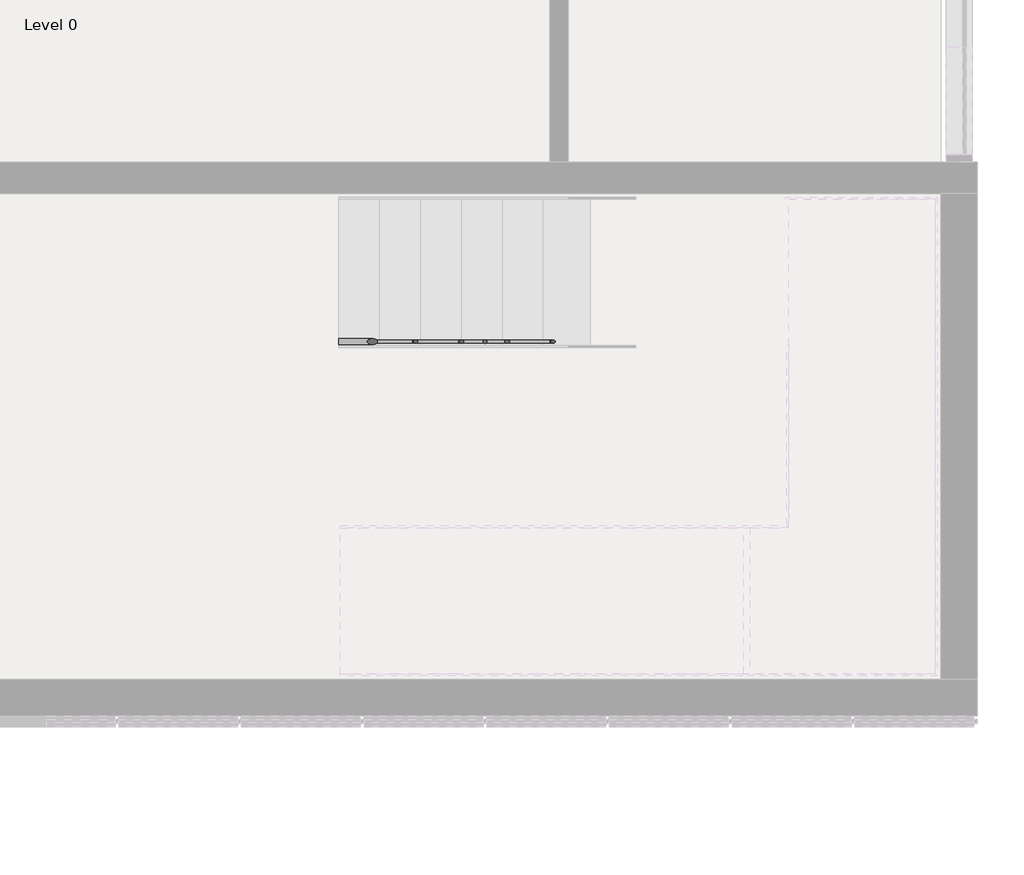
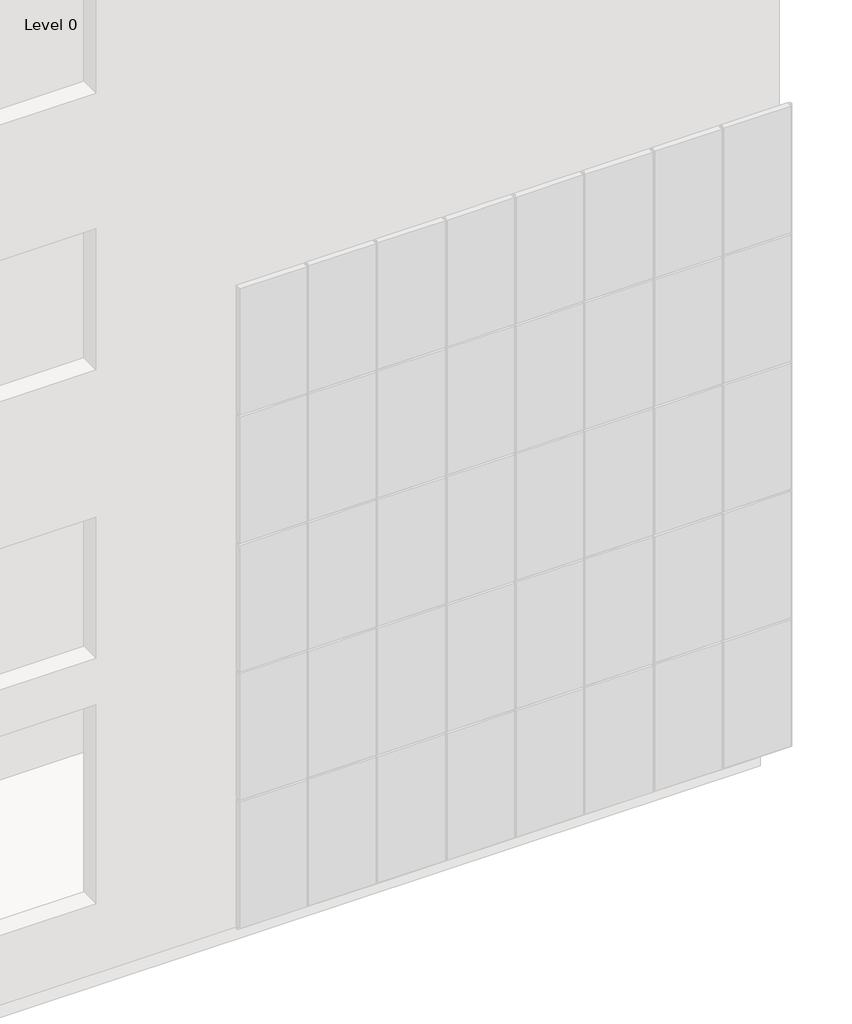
# One storey, part 9 of 10: 1 railing.
"""IFC4 building model written with IfcOpenShell, lengths in millimetres."""

from ifc_helpers import new_model, si_unit, point, frame, frame_2d, origin, place, context, project, spatial, circle_curve, ellipse_curve, trimmed, segment, composite_curve, outline, extrude, element, save
from ifc_brep_helpers import plane_surface, cylinder_surface, advanced_brep

model = new_model("IFC4")

# Units and contexts
model_context = context("Model", 3, world=origin())
ifc_project = project(units=[si_unit("LENGTHUNIT", "METRE", prefix="MILLI")], contexts=[model_context])

# Site, building, storey
site = spatial("IfcSite", under=ifc_project)
building = spatial("IfcBuilding", under=site)
storey = spatial("IfcBuildingStorey", under=building, Name="Level 0", Elevation=0.0)

# Railing
placement = place(None, origin())
element("IfcRailing", 1, ObjectType="900mm_Pipe", at=placement, inside=storey, context=model_context, shape_type="SolidModel", body=[
    advanced_brep(
    [(35285.7942367, -992.7974508, 1054.8502855), (35285.7942367, -952.7974508, 1054.8502855), (38091.628989, -992.7974508, 2844.2857143), (38091.628989, -952.7974508, 2844.2857143), (38371.1942367, -992.7974508, 2844.2857143), (38411.1942367, -952.7974508, 2844.2857143), (38371.1942367, -2266.6392576, 2844.2857143), (38411.1942367, -2300.3644452, 2844.2857143)],
    [
        (0, 1, ellipse_curve(frame((35285.7942367, -972.7974508, 1054.8502855), z_axis=(-1.0, 0.0, 0.0), x_axis=(0.0, 0.0, -1.0)), 23.7211431, 20.0)),
        (1, 0, ellipse_curve(frame((35285.7942367, -972.7974508, 1054.8502855), z_axis=(-1.0, 0.0, 0.0), x_axis=(0.0, 0.0, -1.0)), 23.7211431, 20.0)),
        (0, 2),
        (2, 3, ellipse_curve(frame((38091.628989, -972.7974508, 2844.2857143), z_axis=(-0.9599816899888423, 0.0, -0.2800627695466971), x_axis=(0.2800627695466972, 0.0, -0.9599816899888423)), 20.8337307, 20.0)),
        (3, 1),
        (3, 2, ellipse_curve(frame((38091.628989, -972.7974508, 2844.2857143), z_axis=(-0.9599816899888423, 0.0, -0.2800627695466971), x_axis=(0.2800627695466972, 0.0, -0.9599816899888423)), 20.8337307, 20.0)),
        (2, 4),
        (4, 5, ellipse_curve(frame((38391.1942367, -972.7974508, 2844.2857143), z_axis=(-0.7071067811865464, 0.7071067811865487, 0.0), x_axis=(-0.7071067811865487, -0.7071067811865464, 0.0)), 28.2842712, 20.0)),
        (5, 3),
        (5, 4, ellipse_curve(frame((38391.1942367, -972.7974508, 2844.2857143), z_axis=(-0.7071067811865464, 0.7071067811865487, 0.0), x_axis=(-0.7071067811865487, -0.7071067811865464, 0.0)), 28.2842712, 20.0)),
        (6, 7, ellipse_curve(frame((38391.1942367, -2283.5018514, 2844.2857143), z_axis=(-0.5961827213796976, -0.7071067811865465, 0.38021857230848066), x_axis=(-0.5961827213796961, 0.7071067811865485, 0.3802185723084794)), 28.2842712, 20.0)),
        (7, 6, ellipse_curve(frame((38391.1942367, -2283.5018514, 2844.2857143), z_axis=(-0.5961827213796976, -0.7071067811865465, 0.38021857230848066), x_axis=(-0.5961827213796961, 0.7071067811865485, 0.3802185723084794)), 28.2842712, 20.0)),
        (4, 6),
        (7, 5),
    ],
    [
        plane_surface(frame((35285.7942367, -972.7974508, 1078.5714286), z_axis=(-1.0, 0.0, 0.0), x_axis=(0.0, 1.0, 0.0))),
        cylinder_surface(frame((35296.5484419, -972.7974508, 1061.7088348), z_axis=(-0.8431296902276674, 0.0, -0.5377102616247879), x_axis=(0.0, 1.0, 0.0)), 20.0),
        cylinder_surface(frame((38085.7942367, -972.7974508, 2844.2857143), z_axis=(-1.0, 0.0, 0.0), x_axis=(0.0, 1.0, 0.0)), 20.0),
        plane_surface(frame((38391.1942367, -2272.7476462, 2864.2857143), z_axis=(-0.5961827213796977, -0.7071067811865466, 0.3802185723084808), x_axis=(0.8028487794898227, -0.5250862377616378, 0.2823442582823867))),
        cylinder_surface(frame((38391.1942367, -972.7974508, 2844.2857143), z_axis=(0.0, 1.0, 0.0), x_axis=(1.0, 0.0, 0.0)), 20.0),
    ],
    [
        (0, [[1, 2]]),
        (1, [[-1, 3, 4, 5]]),
        (1, [[-2, -5, 6, -3]]),
        (2, [[-4, 7, 8, 9]]),
        (2, [[-6, -9, 10, -7]]),
        (3, [[11, 12]]),
        (4, [[-8, 13, -12, 14]]),
        (4, [[-10, -14, -11, -13]]),
    ],
),
    advanced_brep(
    [(38348.7428942, -2252.7476462, 2858.1773257), (38382.4680818, -2292.7476462, 2836.6689152), (38085.605488, -2252.7476462, 3025.9945491), (38085.605488, -2292.7476462, 3025.9945491), (35570.5249409, -2252.7476462, 4630.0), (35570.5249409, -2292.7476462, 4630.0), (35296.3596932, -2252.7476462, 4630.0), (35296.3596932, -2292.7476462, 4630.0)],
    [
        (0, 1, ellipse_curve(frame((38365.605488, -2272.7476462, 2847.4231205), z_axis=(0.5961827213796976, 0.7071067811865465, -0.38021857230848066), x_axis=(0.5961827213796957, -0.7071067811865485, -0.38021857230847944)), 28.2842712, 20.0)),
        (1, 0, ellipse_curve(frame((38365.605488, -2272.7476462, 2847.4231205), z_axis=(0.5961827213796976, 0.7071067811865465, -0.38021857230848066), x_axis=(0.5961827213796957, -0.7071067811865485, -0.38021857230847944)), 28.2842712, 20.0)),
        (0, 2),
        (2, 3, circle_curve(frame((38085.605488, -2272.7476462, 3025.9945491), z_axis=(0.8431296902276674, 0.0, -0.5377102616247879), x_axis=(0.0, -1.0, 0.0)), 20.0)),
        (3, 1),
        (3, 2, circle_curve(frame((38085.605488, -2272.7476462, 3025.9945491), z_axis=(0.8431296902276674, 0.0, -0.5377102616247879), x_axis=(0.0, -1.0, 0.0)), 20.0)),
        (2, 4),
        (4, 5, ellipse_curve(frame((35570.5249409, -2272.7476462, 4630.0), z_axis=(0.9599816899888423, 0.0, -0.28006276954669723), x_axis=(-0.28006276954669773, 0.0, -0.9599816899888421)), 20.8337307, 20.0)),
        (5, 3),
        (5, 4, ellipse_curve(frame((35570.5249409, -2272.7476462, 4630.0), z_axis=(0.9599816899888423, 0.0, -0.28006276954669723), x_axis=(-0.28006276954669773, 0.0, -0.9599816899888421)), 20.8337307, 20.0)),
        (6, 7, circle_curve(frame((35296.3596932, -2272.7476462, 4630.0), z_axis=(-1.0, 0.0, 0.0), x_axis=(0.0, -1.0, 0.0)), 20.0)),
        (7, 6, circle_curve(frame((35296.3596932, -2272.7476462, 4630.0), z_axis=(-1.0, 0.0, 0.0), x_axis=(0.0, -1.0, 0.0)), 20.0)),
        (4, 6),
        (7, 5),
    ],
    [
        plane_surface(frame((38376.3596932, -2272.7476462, 2864.2857143), z_axis=(0.5961827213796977, 0.7071067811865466, -0.3802185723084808), x_axis=(0.8028487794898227, -0.5250862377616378, 0.2823442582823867))),
        cylinder_surface(frame((38365.605488, -2272.7476462, 2847.4231205), z_axis=(0.8431296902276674, 0.0, -0.5377102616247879), x_axis=(0.0, -1.0, 0.0)), 20.0),
        cylinder_surface(frame((38085.605488, -2272.7476462, 3025.9945491), z_axis=(0.8431296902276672, 0.0, -0.5377102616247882), x_axis=(0.0, -1.0, 0.0)), 20.0),
        plane_surface(frame((35296.3596932, -2272.7476462, 4650.0), z_axis=(-1.0, 0.0, 0.0), x_axis=(0.0, -1.0, 0.0))),
        cylinder_surface(frame((35576.3596932, -2272.7476462, 4630.0), z_axis=(1.0, 0.0, 0.0), x_axis=(0.0, -1.0, 0.0)), 20.0),
    ],
    [
        (0, [[1, 2]]),
        (1, [[-1, 3, 4, 5]]),
        (1, [[-2, -5, 6, -3]]),
        (2, [[-4, 7, 8, 9]]),
        (2, [[-6, -9, 10, -7]]),
        (3, [[11, 12]]),
        (4, [[-8, 13, -12, 14]]),
        (4, [[-10, -14, -11, -13]]),
    ],
),
    advanced_brep(
    [(35285.7942367, -962.7974508, 866.710857), (35285.7942367, -982.7974508, 866.710857), (38088.7116128, -962.7974508, 2654.2857143), (38088.7116128, -982.7974508, 2654.2857143), (38381.1942367, -962.7974508, 2654.2857143), (38381.1942367, -982.7974508, 2654.2857143)],
    [
        (0, 1, ellipse_curve(frame((35285.7942367, -972.7974508, 866.710857), z_axis=(-1.0, 0.0, 0.0), x_axis=(0.0, 0.0, -1.0)), 11.8605715, 10.0)),
        (1, 0, ellipse_curve(frame((35285.7942367, -972.7974508, 866.710857), z_axis=(-1.0, 0.0, 0.0), x_axis=(0.0, 0.0, -1.0)), 11.8605715, 10.0)),
        (0, 2),
        (2, 3, ellipse_curve(frame((38088.7116128, -972.7974508, 2654.2857143), z_axis=(-0.9599816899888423, 0.0, -0.2800627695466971), x_axis=(0.2800627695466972, 0.0, -0.9599816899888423)), 10.4168653, 10.0)),
        (3, 1),
        (3, 2, ellipse_curve(frame((38088.7116128, -972.7974508, 2654.2857143), z_axis=(-0.9599816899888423, 0.0, -0.2800627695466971), x_axis=(0.2800627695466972, 0.0, -0.9599816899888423)), 10.4168653, 10.0)),
        (4, 5, circle_curve(frame((38381.1942367, -972.7974508, 2654.2857143), z_axis=(1.0, 0.0, 0.0), x_axis=(0.0, -1.0, 0.0)), 10.0)),
        (5, 4, circle_curve(frame((38381.1942367, -972.7974508, 2654.2857143), z_axis=(1.0, 0.0, 0.0), x_axis=(0.0, -1.0, 0.0)), 10.0)),
        (2, 4),
        (5, 3),
    ],
    [
        plane_surface(frame((35285.7942367, -972.7974508, 878.5714286), z_axis=(-1.0, 0.0, 0.0), x_axis=(0.0, 1.0, 0.0))),
        cylinder_surface(frame((35291.1713393, -972.7974508, 870.1401317), z_axis=(-0.8431296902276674, 0.0, -0.5377102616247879), x_axis=(0.0, -1.0, 0.0)), 10.0),
        plane_surface(frame((38381.1942367, -972.7974508, 2664.2857143), z_axis=(1.0, 0.0, 0.0), x_axis=(0.0, 1.0, 0.0))),
        cylinder_surface(frame((38085.7942367, -972.7974508, 2654.2857143), z_axis=(-1.0, 0.0, 0.0), x_axis=(0.0, -1.0, 0.0)), 10.0),
    ],
    [
        (0, [[1, 2]]),
        (1, [[-1, 3, 4, 5]]),
        (1, [[-2, -5, 6, -3]]),
        (2, [[7, 8]]),
        (3, [[-4, 9, -8, 10]]),
        (3, [[-6, -10, -7, -9]]),
    ],
),
    advanced_brep(
    [(38401.1942367, -962.7974508, 2654.2857143), (38381.1942367, -962.7974508, 2654.2857143), (38401.1942367, -2262.7476462, 2654.2857143), (38381.1942367, -2262.7476462, 2654.2857143)],
    [
        (0, 1, circle_curve(frame((38391.1942367, -962.7974508, 2654.2857143), z_axis=(0.0, 1.0, 0.0), x_axis=(-1.0, 0.0, 0.0)), 10.0)),
        (1, 0, circle_curve(frame((38391.1942367, -962.7974508, 2654.2857143), z_axis=(0.0, 1.0, 0.0), x_axis=(-1.0, 0.0, 0.0)), 10.0)),
        (2, 3, circle_curve(frame((38391.1942367, -2262.7476462, 2654.2857143), z_axis=(0.0, -1.0, 0.0), x_axis=(-1.0, 0.0, 0.0)), 10.0)),
        (3, 2, circle_curve(frame((38391.1942367, -2262.7476462, 2654.2857143), z_axis=(0.0, -1.0, 0.0), x_axis=(-1.0, 0.0, 0.0)), 10.0)),
        (0, 2),
        (3, 1),
    ],
    [
        plane_surface(frame((38391.1942367, -962.7974508, 2664.2857143), z_axis=(0.0, 1.0, 0.0), x_axis=(0.0, 0.0, -1.0))),
        plane_surface(frame((38391.1942367, -2262.7476462, 2664.2857143), z_axis=(0.0, -1.0, 0.0), x_axis=(0.0, 0.0, -1.0))),
        cylinder_surface(frame((38391.1942367, -962.7974508, 2654.2857143), z_axis=(0.0, 1.0, 0.0), x_axis=(-1.0, 0.0, 0.0)), 10.0),
    ],
    [
        (0, [[1, 2]]),
        (1, [[3, 4]]),
        (2, [[-1, 5, -4, 6]]),
        (2, [[-2, -6, -3, -5]]),
    ],
),
    advanced_brep(
    [(38401.1942367, -2282.7476462, 2654.2857143), (38401.1942367, -2262.7476462, 2654.2857143), (38373.4423171, -2282.7476462, 2654.2857143), (38373.4423171, -2262.7476462, 2654.2857143), (38096.3596932, -2282.7476462, 2830.9965713), (38096.3596932, -2262.7476462, 2830.9965713)],
    [
        (0, 1, circle_curve(frame((38401.1942367, -2272.7476462, 2654.2857143), z_axis=(1.0, 0.0, 0.0), x_axis=(0.0, 1.0, 0.0)), 10.0)),
        (1, 0, circle_curve(frame((38401.1942367, -2272.7476462, 2654.2857143), z_axis=(1.0, 0.0, 0.0), x_axis=(0.0, 1.0, 0.0)), 10.0)),
        (0, 2),
        (2, 3, ellipse_curve(frame((38373.4423171, -2272.7476462, 2654.2857143), z_axis=(0.9599816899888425, 0.0, -0.2800627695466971), x_axis=(0.28006276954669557, 0.0, 0.9599816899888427)), 10.4168653, 10.0)),
        (3, 1),
        (3, 2, ellipse_curve(frame((38373.4423171, -2272.7476462, 2654.2857143), z_axis=(0.9599816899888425, 0.0, -0.2800627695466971), x_axis=(0.28006276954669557, 0.0, 0.9599816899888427)), 10.4168653, 10.0)),
        (4, 5, ellipse_curve(frame((38096.3596932, -2272.7476462, 2830.9965713), z_axis=(-1.0, 0.0, 0.0), x_axis=(0.0, 0.0, -1.0)), 11.8605715, 10.0)),
        (5, 4, ellipse_curve(frame((38096.3596932, -2272.7476462, 2830.9965713), z_axis=(-1.0, 0.0, 0.0), x_axis=(0.0, 0.0, -1.0)), 11.8605715, 10.0)),
        (2, 4),
        (5, 3),
    ],
    [
        plane_surface(frame((38401.1942367, -2272.7476462, 2664.2857143), z_axis=(1.0, 0.0, 0.0), x_axis=(0.0, -1.0, 0.0))),
        cylinder_surface(frame((38401.1942367, -2272.7476462, 2654.2857143), z_axis=(1.0, 0.0, 0.0), x_axis=(0.0, 1.0, 0.0)), 10.0),
        plane_surface(frame((38096.3596932, -2272.7476462, 2842.8571429), z_axis=(-1.0, 0.0, 0.0), x_axis=(0.0, -1.0, 0.0))),
        cylinder_surface(frame((38370.9825906, -2272.7476462, 2655.8544174), z_axis=(0.8431296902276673, 0.0, -0.5377102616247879), x_axis=(0.0, 1.0, 0.0)), 10.0),
    ],
    [
        (0, [[1, 2]]),
        (1, [[-1, 3, 4, 5]]),
        (1, [[-2, -5, 6, -3]]),
        (2, [[7, 8]]),
        (3, [[-4, 9, -8, 10]]),
        (3, [[-6, -10, -7, -9]]),
    ],
),
    advanced_brep(
    [(38096.3596932, -2282.7476462, 2830.9965713), (38096.3596932, -2262.7476462, 2830.9965713), (35573.4423171, -2282.7476462, 4440.0), (35573.4423171, -2262.7476462, 4440.0), (35296.3596932, -2282.7476462, 4440.0), (35296.3596932, -2262.7476462, 4440.0)],
    [
        (0, 1, ellipse_curve(frame((38096.3596932, -2272.7476462, 2830.9965713), z_axis=(1.0, 0.0, 0.0), x_axis=(0.0, 0.0, -1.0)), 11.8605715, 10.0)),
        (1, 0, ellipse_curve(frame((38096.3596932, -2272.7476462, 2830.9965713), z_axis=(1.0, 0.0, 0.0), x_axis=(0.0, 0.0, -1.0)), 11.8605715, 10.0)),
        (0, 2),
        (2, 3, ellipse_curve(frame((35573.4423171, -2272.7476462, 4440.0), z_axis=(0.9599816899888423, 0.0, -0.28006276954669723), x_axis=(-0.28006276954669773, 0.0, -0.9599816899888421)), 10.4168653, 10.0)),
        (3, 1),
        (3, 2, ellipse_curve(frame((35573.4423171, -2272.7476462, 4440.0), z_axis=(0.9599816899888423, 0.0, -0.28006276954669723), x_axis=(-0.28006276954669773, 0.0, -0.9599816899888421)), 10.4168653, 10.0)),
        (4, 5, circle_curve(frame((35296.3596932, -2272.7476462, 4440.0), z_axis=(-1.0, 0.0, 0.0), x_axis=(0.0, 1.0, 0.0)), 10.0)),
        (5, 4, circle_curve(frame((35296.3596932, -2272.7476462, 4440.0), z_axis=(-1.0, 0.0, 0.0), x_axis=(0.0, 1.0, 0.0)), 10.0)),
        (2, 4),
        (5, 3),
    ],
    [
        plane_surface(frame((38096.3596932, -2272.7476462, 2842.8571429), z_axis=(1.0, 0.0, 0.0), x_axis=(0.0, -1.0, 0.0))),
        cylinder_surface(frame((38090.9825906, -2272.7476462, 2834.425846), z_axis=(0.8431296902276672, 0.0, -0.5377102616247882), x_axis=(0.0, 1.0, 0.0)), 10.0),
        plane_surface(frame((35296.3596932, -2272.7476462, 4450.0), z_axis=(-1.0, 0.0, 0.0), x_axis=(0.0, -1.0, 0.0))),
        cylinder_surface(frame((35576.3596932, -2272.7476462, 4440.0), z_axis=(1.0, 0.0, 0.0), x_axis=(0.0, 1.0, 0.0)), 10.0),
    ],
    [
        (0, [[1, 2]]),
        (1, [[-1, 3, 4, 5]]),
        (1, [[-2, -5, 6, -3]]),
        (2, [[7, 8]]),
        (3, [[-4, 9, -8, 10]]),
        (3, [[-6, -10, -7, -9]]),
    ],
),
    advanced_brep(
    [(35285.7942367, -962.7974508, 666.710857), (35285.7942367, -982.7974508, 666.710857), (38088.7116128, -962.7974508, 2454.2857143), (38088.7116128, -982.7974508, 2454.2857143), (38381.1942367, -962.7974508, 2454.2857143), (38381.1942367, -982.7974508, 2454.2857143)],
    [
        (0, 1, ellipse_curve(frame((35285.7942367, -972.7974508, 666.710857), z_axis=(-1.0, 0.0, 0.0), x_axis=(0.0, 0.0, -1.0)), 11.8605715, 10.0)),
        (1, 0, ellipse_curve(frame((35285.7942367, -972.7974508, 666.710857), z_axis=(-1.0, 0.0, 0.0), x_axis=(0.0, 0.0, -1.0)), 11.8605715, 10.0)),
        (0, 2),
        (2, 3, ellipse_curve(frame((38088.7116128, -972.7974508, 2454.2857143), z_axis=(-0.9599816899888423, 0.0, -0.2800627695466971), x_axis=(0.2800627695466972, 0.0, -0.9599816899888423)), 10.4168653, 10.0)),
        (3, 1),
        (3, 2, ellipse_curve(frame((38088.7116128, -972.7974508, 2454.2857143), z_axis=(-0.9599816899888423, 0.0, -0.2800627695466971), x_axis=(0.2800627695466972, 0.0, -0.9599816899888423)), 10.4168653, 10.0)),
        (4, 5, circle_curve(frame((38381.1942367, -972.7974508, 2454.2857143), z_axis=(1.0, 0.0, 0.0), x_axis=(0.0, -1.0, 0.0)), 10.0)),
        (5, 4, circle_curve(frame((38381.1942367, -972.7974508, 2454.2857143), z_axis=(1.0, 0.0, 0.0), x_axis=(0.0, -1.0, 0.0)), 10.0)),
        (2, 4),
        (5, 3),
    ],
    [
        plane_surface(frame((35285.7942367, -972.7974508, 678.5714286), z_axis=(-1.0, 0.0, 0.0), x_axis=(0.0, 1.0, 0.0))),
        cylinder_surface(frame((35291.1713393, -972.7974508, 670.1401317), z_axis=(-0.8431296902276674, 0.0, -0.5377102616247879), x_axis=(0.0, -1.0, 0.0)), 10.0),
        plane_surface(frame((38381.1942367, -972.7974508, 2464.2857143), z_axis=(1.0, 0.0, 0.0), x_axis=(0.0, 1.0, 0.0))),
        cylinder_surface(frame((38085.7942367, -972.7974508, 2454.2857143), z_axis=(-1.0, 0.0, 0.0), x_axis=(0.0, -1.0, 0.0)), 10.0),
    ],
    [
        (0, [[1, 2]]),
        (1, [[-1, 3, 4, 5]]),
        (1, [[-2, -5, 6, -3]]),
        (2, [[7, 8]]),
        (3, [[-4, 9, -8, 10]]),
        (3, [[-6, -10, -7, -9]]),
    ],
),
    advanced_brep(
    [(38401.1942367, -962.7974508, 2454.2857143), (38381.1942367, -962.7974508, 2454.2857143), (38401.1942367, -2262.7476462, 2454.2857143), (38381.1942367, -2262.7476462, 2454.2857143)],
    [
        (0, 1, circle_curve(frame((38391.1942367, -962.7974508, 2454.2857143), z_axis=(0.0, 1.0, 0.0), x_axis=(-1.0, 0.0, 0.0)), 10.0)),
        (1, 0, circle_curve(frame((38391.1942367, -962.7974508, 2454.2857143), z_axis=(0.0, 1.0, 0.0), x_axis=(-1.0, 0.0, 0.0)), 10.0)),
        (2, 3, circle_curve(frame((38391.1942367, -2262.7476462, 2454.2857143), z_axis=(0.0, -1.0, 0.0), x_axis=(-1.0, 0.0, 0.0)), 10.0)),
        (3, 2, circle_curve(frame((38391.1942367, -2262.7476462, 2454.2857143), z_axis=(0.0, -1.0, 0.0), x_axis=(-1.0, 0.0, 0.0)), 10.0)),
        (0, 2),
        (3, 1),
    ],
    [
        plane_surface(frame((38391.1942367, -962.7974508, 2464.2857143), z_axis=(0.0, 1.0, 0.0), x_axis=(0.0, 0.0, -1.0))),
        plane_surface(frame((38391.1942367, -2262.7476462, 2464.2857143), z_axis=(0.0, -1.0, 0.0), x_axis=(0.0, 0.0, -1.0))),
        cylinder_surface(frame((38391.1942367, -962.7974508, 2454.2857143), z_axis=(0.0, 1.0, 0.0), x_axis=(-1.0, 0.0, 0.0)), 10.0),
    ],
    [
        (0, [[1, 2]]),
        (1, [[3, 4]]),
        (2, [[-1, 5, -4, 6]]),
        (2, [[-2, -6, -3, -5]]),
    ],
),
    advanced_brep(
    [(38401.1942367, -2282.7476462, 2454.2857143), (38401.1942367, -2262.7476462, 2454.2857143), (38373.4423171, -2282.7476462, 2454.2857143), (38373.4423171, -2262.7476462, 2454.2857143), (38096.3596932, -2282.7476462, 2630.9965713), (38096.3596932, -2262.7476462, 2630.9965713)],
    [
        (0, 1, circle_curve(frame((38401.1942367, -2272.7476462, 2454.2857143), z_axis=(1.0, 0.0, 0.0), x_axis=(0.0, 1.0, 0.0)), 10.0)),
        (1, 0, circle_curve(frame((38401.1942367, -2272.7476462, 2454.2857143), z_axis=(1.0, 0.0, 0.0), x_axis=(0.0, 1.0, 0.0)), 10.0)),
        (0, 2),
        (2, 3, ellipse_curve(frame((38373.4423171, -2272.7476462, 2454.2857143), z_axis=(0.9599816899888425, 0.0, -0.2800627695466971), x_axis=(0.28006276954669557, 0.0, 0.9599816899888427)), 10.4168653, 10.0)),
        (3, 1),
        (3, 2, ellipse_curve(frame((38373.4423171, -2272.7476462, 2454.2857143), z_axis=(0.9599816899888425, 0.0, -0.2800627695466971), x_axis=(0.28006276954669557, 0.0, 0.9599816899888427)), 10.4168653, 10.0)),
        (4, 5, ellipse_curve(frame((38096.3596932, -2272.7476462, 2630.9965713), z_axis=(-1.0, 0.0, 0.0), x_axis=(0.0, 0.0, -1.0)), 11.8605715, 10.0)),
        (5, 4, ellipse_curve(frame((38096.3596932, -2272.7476462, 2630.9965713), z_axis=(-1.0, 0.0, 0.0), x_axis=(0.0, 0.0, -1.0)), 11.8605715, 10.0)),
        (2, 4),
        (5, 3),
    ],
    [
        plane_surface(frame((38401.1942367, -2272.7476462, 2464.2857143), z_axis=(1.0, 0.0, 0.0), x_axis=(0.0, -1.0, 0.0))),
        cylinder_surface(frame((38401.1942367, -2272.7476462, 2454.2857143), z_axis=(1.0, 0.0, 0.0), x_axis=(0.0, 1.0, 0.0)), 10.0),
        plane_surface(frame((38096.3596932, -2272.7476462, 2642.8571429), z_axis=(-1.0, 0.0, 0.0), x_axis=(0.0, -1.0, 0.0))),
        cylinder_surface(frame((38370.9825906, -2272.7476462, 2455.8544174), z_axis=(0.8431296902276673, 0.0, -0.5377102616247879), x_axis=(0.0, 1.0, 0.0)), 10.0),
    ],
    [
        (0, [[1, 2]]),
        (1, [[-1, 3, 4, 5]]),
        (1, [[-2, -5, 6, -3]]),
        (2, [[7, 8]]),
        (3, [[-4, 9, -8, 10]]),
        (3, [[-6, -10, -7, -9]]),
    ],
),
    advanced_brep(
    [(38096.3596932, -2282.7476462, 2630.9965713), (38096.3596932, -2262.7476462, 2630.9965713), (35573.4423171, -2282.7476462, 4240.0), (35573.4423171, -2262.7476462, 4240.0), (35296.3596932, -2282.7476462, 4240.0), (35296.3596932, -2262.7476462, 4240.0)],
    [
        (0, 1, ellipse_curve(frame((38096.3596932, -2272.7476462, 2630.9965713), z_axis=(1.0, 0.0, 0.0), x_axis=(0.0, 0.0, -1.0)), 11.8605715, 10.0)),
        (1, 0, ellipse_curve(frame((38096.3596932, -2272.7476462, 2630.9965713), z_axis=(1.0, 0.0, 0.0), x_axis=(0.0, 0.0, -1.0)), 11.8605715, 10.0)),
        (0, 2),
        (2, 3, ellipse_curve(frame((35573.4423171, -2272.7476462, 4240.0), z_axis=(0.9599816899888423, 0.0, -0.28006276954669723), x_axis=(-0.28006276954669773, 0.0, -0.9599816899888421)), 10.4168653, 10.0)),
        (3, 1),
        (3, 2, ellipse_curve(frame((35573.4423171, -2272.7476462, 4240.0), z_axis=(0.9599816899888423, 0.0, -0.28006276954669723), x_axis=(-0.28006276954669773, 0.0, -0.9599816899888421)), 10.4168653, 10.0)),
        (4, 5, circle_curve(frame((35296.3596932, -2272.7476462, 4240.0), z_axis=(-1.0, 0.0, 0.0), x_axis=(0.0, 1.0, 0.0)), 10.0)),
        (5, 4, circle_curve(frame((35296.3596932, -2272.7476462, 4240.0), z_axis=(-1.0, 0.0, 0.0), x_axis=(0.0, 1.0, 0.0)), 10.0)),
        (2, 4),
        (5, 3),
    ],
    [
        plane_surface(frame((38096.3596932, -2272.7476462, 2642.8571429), z_axis=(1.0, 0.0, 0.0), x_axis=(0.0, -1.0, 0.0))),
        cylinder_surface(frame((38090.9825906, -2272.7476462, 2634.425846), z_axis=(0.8431296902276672, 0.0, -0.5377102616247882), x_axis=(0.0, 1.0, 0.0)), 10.0),
        plane_surface(frame((35296.3596932, -2272.7476462, 4250.0), z_axis=(-1.0, 0.0, 0.0), x_axis=(0.0, -1.0, 0.0))),
        cylinder_surface(frame((35576.3596932, -2272.7476462, 4240.0), z_axis=(1.0, 0.0, 0.0), x_axis=(0.0, 1.0, 0.0)), 10.0),
    ],
    [
        (0, [[1, 2]]),
        (1, [[-1, 3, 4, 5]]),
        (1, [[-2, -5, 6, -3]]),
        (2, [[7, 8]]),
        (3, [[-4, 9, -8, 10]]),
        (3, [[-6, -10, -7, -9]]),
    ],
),
    advanced_brep(
    [(35285.7942367, -962.7974508, 466.710857), (35285.7942367, -982.7974508, 466.710857), (38088.7116128, -962.7974508, 2254.2857143), (38088.7116128, -982.7974508, 2254.2857143), (38381.1942367, -962.7974508, 2254.2857143), (38381.1942367, -982.7974508, 2254.2857143)],
    [
        (0, 1, ellipse_curve(frame((35285.7942367, -972.7974508, 466.710857), z_axis=(-1.0, 0.0, 0.0), x_axis=(0.0, 0.0, -1.0)), 11.8605715, 10.0)),
        (1, 0, ellipse_curve(frame((35285.7942367, -972.7974508, 466.710857), z_axis=(-1.0, 0.0, 0.0), x_axis=(0.0, 0.0, -1.0)), 11.8605715, 10.0)),
        (0, 2),
        (2, 3, ellipse_curve(frame((38088.7116128, -972.7974508, 2254.2857143), z_axis=(-0.9599816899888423, 0.0, -0.2800627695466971), x_axis=(0.2800627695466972, 0.0, -0.9599816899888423)), 10.4168653, 10.0)),
        (3, 1),
        (3, 2, ellipse_curve(frame((38088.7116128, -972.7974508, 2254.2857143), z_axis=(-0.9599816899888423, 0.0, -0.2800627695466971), x_axis=(0.2800627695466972, 0.0, -0.9599816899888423)), 10.4168653, 10.0)),
        (4, 5, circle_curve(frame((38381.1942367, -972.7974508, 2254.2857143), z_axis=(1.0, 0.0, 0.0), x_axis=(0.0, -1.0, 0.0)), 10.0)),
        (5, 4, circle_curve(frame((38381.1942367, -972.7974508, 2254.2857143), z_axis=(1.0, 0.0, 0.0), x_axis=(0.0, -1.0, 0.0)), 10.0)),
        (2, 4),
        (5, 3),
    ],
    [
        plane_surface(frame((35285.7942367, -972.7974508, 478.5714286), z_axis=(-1.0, 0.0, 0.0), x_axis=(0.0, 1.0, 0.0))),
        cylinder_surface(frame((35291.1713393, -972.7974508, 470.1401317), z_axis=(-0.8431296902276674, 0.0, -0.5377102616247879), x_axis=(0.0, -1.0, 0.0)), 10.0),
        plane_surface(frame((38381.1942367, -972.7974508, 2264.2857143), z_axis=(1.0, 0.0, 0.0), x_axis=(0.0, 1.0, 0.0))),
        cylinder_surface(frame((38085.7942367, -972.7974508, 2254.2857143), z_axis=(-1.0, 0.0, 0.0), x_axis=(0.0, -1.0, 0.0)), 10.0),
    ],
    [
        (0, [[1, 2]]),
        (1, [[-1, 3, 4, 5]]),
        (1, [[-2, -5, 6, -3]]),
        (2, [[7, 8]]),
        (3, [[-4, 9, -8, 10]]),
        (3, [[-6, -10, -7, -9]]),
    ],
),
    advanced_brep(
    [(38401.1942367, -962.7974508, 2254.2857143), (38381.1942367, -962.7974508, 2254.2857143), (38401.1942367, -2262.7476462, 2254.2857143), (38381.1942367, -2262.7476462, 2254.2857143)],
    [
        (0, 1, circle_curve(frame((38391.1942367, -962.7974508, 2254.2857143), z_axis=(0.0, 1.0, 0.0), x_axis=(-1.0, 0.0, 0.0)), 10.0)),
        (1, 0, circle_curve(frame((38391.1942367, -962.7974508, 2254.2857143), z_axis=(0.0, 1.0, 0.0), x_axis=(-1.0, 0.0, 0.0)), 10.0)),
        (2, 3, circle_curve(frame((38391.1942367, -2262.7476462, 2254.2857143), z_axis=(0.0, -1.0, 0.0), x_axis=(-1.0, 0.0, 0.0)), 10.0)),
        (3, 2, circle_curve(frame((38391.1942367, -2262.7476462, 2254.2857143), z_axis=(0.0, -1.0, 0.0), x_axis=(-1.0, 0.0, 0.0)), 10.0)),
        (0, 2),
        (3, 1),
    ],
    [
        plane_surface(frame((38391.1942367, -962.7974508, 2264.2857143), z_axis=(0.0, 1.0, 0.0), x_axis=(0.0, 0.0, -1.0))),
        plane_surface(frame((38391.1942367, -2262.7476462, 2264.2857143), z_axis=(0.0, -1.0, 0.0), x_axis=(0.0, 0.0, -1.0))),
        cylinder_surface(frame((38391.1942367, -962.7974508, 2254.2857143), z_axis=(0.0, 1.0, 0.0), x_axis=(-1.0, 0.0, 0.0)), 10.0),
    ],
    [
        (0, [[1, 2]]),
        (1, [[3, 4]]),
        (2, [[-1, 5, -4, 6]]),
        (2, [[-2, -6, -3, -5]]),
    ],
),
    advanced_brep(
    [(38401.1942367, -2282.7476462, 2254.2857143), (38401.1942367, -2262.7476462, 2254.2857143), (38373.4423171, -2282.7476462, 2254.2857143), (38373.4423171, -2262.7476462, 2254.2857143), (38096.3596932, -2282.7476462, 2430.9965713), (38096.3596932, -2262.7476462, 2430.9965713)],
    [
        (0, 1, circle_curve(frame((38401.1942367, -2272.7476462, 2254.2857143), z_axis=(1.0, 0.0, 0.0), x_axis=(0.0, 1.0, 0.0)), 10.0)),
        (1, 0, circle_curve(frame((38401.1942367, -2272.7476462, 2254.2857143), z_axis=(1.0, 0.0, 0.0), x_axis=(0.0, 1.0, 0.0)), 10.0)),
        (0, 2),
        (2, 3, ellipse_curve(frame((38373.4423171, -2272.7476462, 2254.2857143), z_axis=(0.9599816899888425, 0.0, -0.2800627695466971), x_axis=(0.28006276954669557, 0.0, 0.9599816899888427)), 10.4168653, 10.0)),
        (3, 1),
        (3, 2, ellipse_curve(frame((38373.4423171, -2272.7476462, 2254.2857143), z_axis=(0.9599816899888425, 0.0, -0.2800627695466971), x_axis=(0.28006276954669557, 0.0, 0.9599816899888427)), 10.4168653, 10.0)),
        (4, 5, ellipse_curve(frame((38096.3596932, -2272.7476462, 2430.9965713), z_axis=(-1.0, 0.0, 0.0), x_axis=(0.0, 0.0, -1.0)), 11.8605715, 10.0)),
        (5, 4, ellipse_curve(frame((38096.3596932, -2272.7476462, 2430.9965713), z_axis=(-1.0, 0.0, 0.0), x_axis=(0.0, 0.0, -1.0)), 11.8605715, 10.0)),
        (2, 4),
        (5, 3),
    ],
    [
        plane_surface(frame((38401.1942367, -2272.7476462, 2264.2857143), z_axis=(1.0, 0.0, 0.0), x_axis=(0.0, -1.0, 0.0))),
        cylinder_surface(frame((38401.1942367, -2272.7476462, 2254.2857143), z_axis=(1.0, 0.0, 0.0), x_axis=(0.0, 1.0, 0.0)), 10.0),
        plane_surface(frame((38096.3596932, -2272.7476462, 2442.8571429), z_axis=(-1.0, 0.0, 0.0), x_axis=(0.0, -1.0, 0.0))),
        cylinder_surface(frame((38370.9825906, -2272.7476462, 2255.8544174), z_axis=(0.8431296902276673, 0.0, -0.5377102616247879), x_axis=(0.0, 1.0, 0.0)), 10.0),
    ],
    [
        (0, [[1, 2]]),
        (1, [[-1, 3, 4, 5]]),
        (1, [[-2, -5, 6, -3]]),
        (2, [[7, 8]]),
        (3, [[-4, 9, -8, 10]]),
        (3, [[-6, -10, -7, -9]]),
    ],
),
    advanced_brep(
    [(38096.3596932, -2282.7476462, 2430.9965713), (38096.3596932, -2262.7476462, 2430.9965713), (35573.4423171, -2282.7476462, 4040.0), (35573.4423171, -2262.7476462, 4040.0), (35296.3596932, -2282.7476462, 4040.0), (35296.3596932, -2262.7476462, 4040.0)],
    [
        (0, 1, ellipse_curve(frame((38096.3596932, -2272.7476462, 2430.9965713), z_axis=(1.0, 0.0, 0.0), x_axis=(0.0, 0.0, -1.0)), 11.8605715, 10.0)),
        (1, 0, ellipse_curve(frame((38096.3596932, -2272.7476462, 2430.9965713), z_axis=(1.0, 0.0, 0.0), x_axis=(0.0, 0.0, -1.0)), 11.8605715, 10.0)),
        (0, 2),
        (2, 3, ellipse_curve(frame((35573.4423171, -2272.7476462, 4040.0), z_axis=(0.9599816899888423, 0.0, -0.28006276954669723), x_axis=(-0.28006276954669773, 0.0, -0.9599816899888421)), 10.4168653, 10.0)),
        (3, 1),
        (3, 2, ellipse_curve(frame((35573.4423171, -2272.7476462, 4040.0), z_axis=(0.9599816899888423, 0.0, -0.28006276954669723), x_axis=(-0.28006276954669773, 0.0, -0.9599816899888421)), 10.4168653, 10.0)),
        (4, 5, circle_curve(frame((35296.3596932, -2272.7476462, 4040.0), z_axis=(-1.0, 0.0, 0.0), x_axis=(0.0, 1.0, 0.0)), 10.0)),
        (5, 4, circle_curve(frame((35296.3596932, -2272.7476462, 4040.0), z_axis=(-1.0, 0.0, 0.0), x_axis=(0.0, 1.0, 0.0)), 10.0)),
        (2, 4),
        (5, 3),
    ],
    [
        plane_surface(frame((38096.3596932, -2272.7476462, 2442.8571429), z_axis=(1.0, 0.0, 0.0), x_axis=(0.0, -1.0, 0.0))),
        cylinder_surface(frame((38090.9825906, -2272.7476462, 2434.425846), z_axis=(0.8431296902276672, 0.0, -0.5377102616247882), x_axis=(0.0, 1.0, 0.0)), 10.0),
        plane_surface(frame((35296.3596932, -2272.7476462, 4050.0), z_axis=(-1.0, 0.0, 0.0), x_axis=(0.0, -1.0, 0.0))),
        cylinder_surface(frame((35576.3596932, -2272.7476462, 4040.0), z_axis=(1.0, 0.0, 0.0), x_axis=(0.0, 1.0, 0.0)), 10.0),
    ],
    [
        (0, [[1, 2]]),
        (1, [[-1, 3, 4, 5]]),
        (1, [[-2, -5, 6, -3]]),
        (2, [[7, 8]]),
        (3, [[-4, 9, -8, 10]]),
        (3, [[-6, -10, -7, -9]]),
    ],
),
    advanced_brep(
    [(35285.7942367, -962.7974508, 266.710857), (35285.7942367, -982.7974508, 266.710857), (38088.7116128, -962.7974508, 2054.2857143), (38088.7116128, -982.7974508, 2054.2857143), (38381.1942367, -962.7974508, 2054.2857143), (38381.1942367, -982.7974508, 2054.2857143)],
    [
        (0, 1, ellipse_curve(frame((35285.7942367, -972.7974508, 266.710857), z_axis=(-1.0, 0.0, 0.0), x_axis=(0.0, 0.0, -1.0)), 11.8605715, 10.0)),
        (1, 0, ellipse_curve(frame((35285.7942367, -972.7974508, 266.710857), z_axis=(-1.0, 0.0, 0.0), x_axis=(0.0, 0.0, -1.0)), 11.8605715, 10.0)),
        (0, 2),
        (2, 3, ellipse_curve(frame((38088.7116128, -972.7974508, 2054.2857143), z_axis=(-0.9599816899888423, 0.0, -0.2800627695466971), x_axis=(0.2800627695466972, 0.0, -0.9599816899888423)), 10.4168653, 10.0)),
        (3, 1),
        (3, 2, ellipse_curve(frame((38088.7116128, -972.7974508, 2054.2857143), z_axis=(-0.9599816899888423, 0.0, -0.2800627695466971), x_axis=(0.2800627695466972, 0.0, -0.9599816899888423)), 10.4168653, 10.0)),
        (4, 5, circle_curve(frame((38381.1942367, -972.7974508, 2054.2857143), z_axis=(1.0, 0.0, 0.0), x_axis=(0.0, -1.0, 0.0)), 10.0)),
        (5, 4, circle_curve(frame((38381.1942367, -972.7974508, 2054.2857143), z_axis=(1.0, 0.0, 0.0), x_axis=(0.0, -1.0, 0.0)), 10.0)),
        (2, 4),
        (5, 3),
    ],
    [
        plane_surface(frame((35285.7942367, -972.7974508, 278.5714286), z_axis=(-1.0, 0.0, 0.0), x_axis=(0.0, 1.0, 0.0))),
        cylinder_surface(frame((35291.1713393, -972.7974508, 270.1401317), z_axis=(-0.8431296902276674, 0.0, -0.5377102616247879), x_axis=(0.0, -1.0, 0.0)), 10.0),
        plane_surface(frame((38381.1942367, -972.7974508, 2064.2857143), z_axis=(1.0, 0.0, 0.0), x_axis=(0.0, 1.0, 0.0))),
        cylinder_surface(frame((38085.7942367, -972.7974508, 2054.2857143), z_axis=(-1.0, 0.0, 0.0), x_axis=(0.0, -1.0, 0.0)), 10.0),
    ],
    [
        (0, [[1, 2]]),
        (1, [[-1, 3, 4, 5]]),
        (1, [[-2, -5, 6, -3]]),
        (2, [[7, 8]]),
        (3, [[-4, 9, -8, 10]]),
        (3, [[-6, -10, -7, -9]]),
    ],
),
    advanced_brep(
    [(38401.1942367, -962.7974508, 2054.2857143), (38381.1942367, -962.7974508, 2054.2857143), (38401.1942367, -2262.7476462, 2054.2857143), (38381.1942367, -2262.7476462, 2054.2857143)],
    [
        (0, 1, circle_curve(frame((38391.1942367, -962.7974508, 2054.2857143), z_axis=(0.0, 1.0, 0.0), x_axis=(-1.0, 0.0, 0.0)), 10.0)),
        (1, 0, circle_curve(frame((38391.1942367, -962.7974508, 2054.2857143), z_axis=(0.0, 1.0, 0.0), x_axis=(-1.0, 0.0, 0.0)), 10.0)),
        (2, 3, circle_curve(frame((38391.1942367, -2262.7476462, 2054.2857143), z_axis=(0.0, -1.0, 0.0), x_axis=(-1.0, 0.0, 0.0)), 10.0)),
        (3, 2, circle_curve(frame((38391.1942367, -2262.7476462, 2054.2857143), z_axis=(0.0, -1.0, 0.0), x_axis=(-1.0, 0.0, 0.0)), 10.0)),
        (0, 2),
        (3, 1),
    ],
    [
        plane_surface(frame((38391.1942367, -962.7974508, 2064.2857143), z_axis=(0.0, 1.0, 0.0), x_axis=(0.0, 0.0, -1.0))),
        plane_surface(frame((38391.1942367, -2262.7476462, 2064.2857143), z_axis=(0.0, -1.0, 0.0), x_axis=(0.0, 0.0, -1.0))),
        cylinder_surface(frame((38391.1942367, -962.7974508, 2054.2857143), z_axis=(0.0, 1.0, 0.0), x_axis=(-1.0, 0.0, 0.0)), 10.0),
    ],
    [
        (0, [[1, 2]]),
        (1, [[3, 4]]),
        (2, [[-1, 5, -4, 6]]),
        (2, [[-2, -6, -3, -5]]),
    ],
),
    advanced_brep(
    [(38401.1942367, -2282.7476462, 2054.2857143), (38401.1942367, -2262.7476462, 2054.2857143), (38373.4423171, -2282.7476462, 2054.2857143), (38373.4423171, -2262.7476462, 2054.2857143), (38096.3596932, -2282.7476462, 2230.9965713), (38096.3596932, -2262.7476462, 2230.9965713)],
    [
        (0, 1, circle_curve(frame((38401.1942367, -2272.7476462, 2054.2857143), z_axis=(1.0, 0.0, 0.0), x_axis=(0.0, 1.0, 0.0)), 10.0)),
        (1, 0, circle_curve(frame((38401.1942367, -2272.7476462, 2054.2857143), z_axis=(1.0, 0.0, 0.0), x_axis=(0.0, 1.0, 0.0)), 10.0)),
        (0, 2),
        (2, 3, ellipse_curve(frame((38373.4423171, -2272.7476462, 2054.2857143), z_axis=(0.9599816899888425, 0.0, -0.2800627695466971), x_axis=(0.28006276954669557, 0.0, 0.9599816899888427)), 10.4168653, 10.0)),
        (3, 1),
        (3, 2, ellipse_curve(frame((38373.4423171, -2272.7476462, 2054.2857143), z_axis=(0.9599816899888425, 0.0, -0.2800627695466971), x_axis=(0.28006276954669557, 0.0, 0.9599816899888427)), 10.4168653, 10.0)),
        (4, 5, ellipse_curve(frame((38096.3596932, -2272.7476462, 2230.9965713), z_axis=(-1.0, 0.0, 0.0), x_axis=(0.0, 0.0, -1.0)), 11.8605715, 10.0)),
        (5, 4, ellipse_curve(frame((38096.3596932, -2272.7476462, 2230.9965713), z_axis=(-1.0, 0.0, 0.0), x_axis=(0.0, 0.0, -1.0)), 11.8605715, 10.0)),
        (2, 4),
        (5, 3),
    ],
    [
        plane_surface(frame((38401.1942367, -2272.7476462, 2064.2857143), z_axis=(1.0, 0.0, 0.0), x_axis=(0.0, -1.0, 0.0))),
        cylinder_surface(frame((38401.1942367, -2272.7476462, 2054.2857143), z_axis=(1.0, 0.0, 0.0), x_axis=(0.0, 1.0, 0.0)), 10.0),
        plane_surface(frame((38096.3596932, -2272.7476462, 2242.8571429), z_axis=(-1.0, 0.0, 0.0), x_axis=(0.0, -1.0, 0.0))),
        cylinder_surface(frame((38370.9825906, -2272.7476462, 2055.8544174), z_axis=(0.8431296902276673, 0.0, -0.5377102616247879), x_axis=(0.0, 1.0, 0.0)), 10.0),
    ],
    [
        (0, [[1, 2]]),
        (1, [[-1, 3, 4, 5]]),
        (1, [[-2, -5, 6, -3]]),
        (2, [[7, 8]]),
        (3, [[-4, 9, -8, 10]]),
        (3, [[-6, -10, -7, -9]]),
    ],
),
    advanced_brep(
    [(38096.3596932, -2282.7476462, 2230.9965713), (38096.3596932, -2262.7476462, 2230.9965713), (35573.4423171, -2282.7476462, 3840.0), (35573.4423171, -2262.7476462, 3840.0), (35296.3596932, -2282.7476462, 3840.0), (35296.3596932, -2262.7476462, 3840.0)],
    [
        (0, 1, ellipse_curve(frame((38096.3596932, -2272.7476462, 2230.9965713), z_axis=(1.0, 0.0, 0.0), x_axis=(0.0, 0.0, -1.0)), 11.8605715, 10.0)),
        (1, 0, ellipse_curve(frame((38096.3596932, -2272.7476462, 2230.9965713), z_axis=(1.0, 0.0, 0.0), x_axis=(0.0, 0.0, -1.0)), 11.8605715, 10.0)),
        (0, 2),
        (2, 3, ellipse_curve(frame((35573.4423171, -2272.7476462, 3840.0), z_axis=(0.9599816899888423, 0.0, -0.28006276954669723), x_axis=(-0.28006276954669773, 0.0, -0.9599816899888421)), 10.4168653, 10.0)),
        (3, 1),
        (3, 2, ellipse_curve(frame((35573.4423171, -2272.7476462, 3840.0), z_axis=(0.9599816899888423, 0.0, -0.28006276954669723), x_axis=(-0.28006276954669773, 0.0, -0.9599816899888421)), 10.4168653, 10.0)),
        (4, 5, circle_curve(frame((35296.3596932, -2272.7476462, 3840.0), z_axis=(-1.0, 0.0, 0.0), x_axis=(0.0, 1.0, 0.0)), 10.0)),
        (5, 4, circle_curve(frame((35296.3596932, -2272.7476462, 3840.0), z_axis=(-1.0, 0.0, 0.0), x_axis=(0.0, 1.0, 0.0)), 10.0)),
        (2, 4),
        (5, 3),
    ],
    [
        plane_surface(frame((38096.3596932, -2272.7476462, 2242.8571429), z_axis=(1.0, 0.0, 0.0), x_axis=(0.0, -1.0, 0.0))),
        cylinder_surface(frame((38090.9825906, -2272.7476462, 2234.425846), z_axis=(0.8431296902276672, 0.0, -0.5377102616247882), x_axis=(0.0, 1.0, 0.0)), 10.0),
        plane_surface(frame((35296.3596932, -2272.7476462, 3850.0), z_axis=(-1.0, 0.0, 0.0), x_axis=(0.0, -1.0, 0.0))),
        cylinder_surface(frame((35576.3596932, -2272.7476462, 3840.0), z_axis=(1.0, 0.0, 0.0), x_axis=(0.0, 1.0, 0.0)), 10.0),
    ],
    [
        (0, [[1, 2]]),
        (1, [[-1, 3, 4, 5]]),
        (1, [[-2, -5, 6, -3]]),
        (2, [[7, 8]]),
        (3, [[-4, 9, -8, 10]]),
        (3, [[-6, -10, -7, -9]]),
    ],
),
    advanced_brep(
    [(36096.3596932, -2260.2476462, 4270.9250608), (36096.3596932, -2260.2476462, 3392.8571429), (36096.3596932, -2285.2476462, 3392.8571429), (36096.3596932, -2285.2476462, 4270.9250608)],
    [
        (0, 1),
        (1, 2, circle_curve(frame((36096.3596932, -2272.7476462, 3392.8571429), z_axis=(0.0, 0.0, 1.0), x_axis=(0.0, -1.0, 0.0)), 12.5)),
        (2, 3),
        (3, 0, ellipse_curve(frame((36096.3596932, -2272.7476462, 4270.9250608), z_axis=(-0.5377102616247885, 0.0, -0.8431296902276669), x_axis=(-0.8431296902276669, 0.0, 0.5377102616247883)), 14.8257144, 12.5)),
        (0, 3, ellipse_curve(frame((36096.3596932, -2272.7476462, 4270.9250608), z_axis=(-0.5377102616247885, 0.0, -0.8431296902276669), x_axis=(-0.8431296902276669, 0.0, 0.5377102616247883)), 14.8257144, 12.5)),
        (2, 1, circle_curve(frame((36096.3596932, -2272.7476462, 3392.8571429), z_axis=(0.0, 0.0, 1.0), x_axis=(0.0, -1.0, 0.0)), 12.5)),
    ],
    [
        cylinder_surface(frame((36096.3596932, -2272.7476462, 3292.8571429), z_axis=(0.0, 0.0, 1.0), x_axis=(0.0, -1.0, 0.0)), 12.5),
        plane_surface(frame((36071.3596932, -2297.7476462, 4286.8689384), z_axis=(0.5377102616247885, 0.0, 0.8431296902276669), x_axis=(0.0, 1.0, 0.0))),
        plane_surface(frame((36121.3596932, -2297.7476462, 3392.8571429), z_axis=(0.0, 0.0, -1.0), x_axis=(0.0, 1.0, 0.0))),
    ],
    [
        (0, [[1, 2, 3, 4]]),
        (0, [[-1, 5, -3, 6]]),
        (1, [[-4, -5]]),
        (2, [[-2, -6]]),
    ],
),
    advanced_brep(
    [(37096.3596932, -2260.2476462, 3633.1699588), (37096.3596932, -2260.2476462, 2678.5714286), (37096.3596932, -2285.2476462, 2678.5714286), (37096.3596932, -2285.2476462, 3633.1699588)],
    [
        (0, 1),
        (1, 2, circle_curve(frame((37096.3596932, -2272.7476462, 2678.5714286), z_axis=(0.0, 0.0, 1.0), x_axis=(0.0, -1.0, 0.0)), 12.5)),
        (2, 3),
        (3, 0, ellipse_curve(frame((37096.3596932, -2272.7476462, 3633.1699588), z_axis=(-0.5377102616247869, 0.0, -0.8431296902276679), x_axis=(-0.8431296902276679, 0.0, 0.5377102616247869)), 14.8257144, 12.5)),
        (0, 3, ellipse_curve(frame((37096.3596932, -2272.7476462, 3633.1699588), z_axis=(-0.5377102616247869, 0.0, -0.8431296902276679), x_axis=(-0.8431296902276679, 0.0, 0.5377102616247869)), 14.8257144, 12.5)),
        (2, 1, circle_curve(frame((37096.3596932, -2272.7476462, 2678.5714286), z_axis=(0.0, 0.0, 1.0), x_axis=(0.0, -1.0, 0.0)), 12.5)),
    ],
    [
        cylinder_surface(frame((37096.3596932, -2272.7476462, 2578.5714286), z_axis=(0.0, 0.0, 1.0), x_axis=(0.0, -1.0, 0.0)), 12.5),
        plane_surface(frame((37071.3596932, -2297.7476462, 3649.1138363), z_axis=(0.5377102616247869, 0.0, 0.8431296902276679), x_axis=(0.0, 1.0, 0.0))),
        plane_surface(frame((37121.3596932, -2297.7476462, 2678.5714286), z_axis=(0.0, 0.0, -1.0), x_axis=(0.0, 1.0, 0.0))),
    ],
    [
        (0, [[1, 2, 3, 4]]),
        (0, [[-1, 5, -3, 6]]),
        (1, [[-4, -5]]),
        (2, [[-2, -6]]),
    ],
),
    extrude(outline(composite_curve([segment(trimmed(circle_curve(frame_2d((38391.1942367, -1972.7974508)), 12.5), [point((38403.6942367, -1972.7974508))], [point((38378.6942367, -1972.7974508))], False, "CARTESIAN"), True, "CONTINUOUS"), segment(trimmed(circle_curve(frame_2d((38391.1942367, -1972.7974508)), 12.5), [point((38378.6942367, -1972.7974508))], [point((38403.6942367, -1972.7974508))], False, "CARTESIAN"), True, "CONTINUOUS")], self_intersect=False)), frame((0.0, 0.0, 1964.2857143), z_axis=(0.0, 0.0, 1.0), x_axis=(1.0, 0.0, 0.0)), (0.0, 0.0, 1.0), 860.0),
    extrude(outline(composite_curve([segment(trimmed(circle_curve(frame_2d((38285.7942367, -972.7974508)), 12.5), [point((38285.7942367, -960.2974508))], [point((38285.7942367, -985.2974508))], False, "CARTESIAN"), True, "CONTINUOUS"), segment(trimmed(circle_curve(frame_2d((38285.7942367, -972.7974508)), 12.5), [point((38285.7942367, -985.2974508))], [point((38285.7942367, -960.2974508))], False, "CARTESIAN"), True, "CONTINUOUS")], self_intersect=False)), frame((0.0, 0.0, 1964.2857143), z_axis=(0.0, 0.0, 1.0), x_axis=(1.0, 0.0, 0.0)), (0.0, 0.0, 1.0), 860.0),
    advanced_brep(
    [(37285.7942367, -985.2974508, 2306.6393465), (37285.7942367, -985.2974508, 1428.5714286), (37285.7942367, -960.2974508, 1428.5714286), (37285.7942367, -960.2974508, 2306.6393465)],
    [
        (0, 1),
        (1, 2, circle_curve(frame((37285.7942367, -972.7974508, 1428.5714286), z_axis=(0.0, 0.0, 1.0), x_axis=(0.0, 1.0, 0.0)), 12.5)),
        (2, 3),
        (3, 0, ellipse_curve(frame((37285.7942367, -972.7974508, 2306.6393465), z_axis=(0.5377102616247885, 0.0, -0.8431296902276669), x_axis=(0.8431296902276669, 0.0, 0.5377102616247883)), 14.8257144, 12.5)),
        (0, 3, ellipse_curve(frame((37285.7942367, -972.7974508, 2306.6393465), z_axis=(0.5377102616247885, 0.0, -0.8431296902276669), x_axis=(0.8431296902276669, 0.0, 0.5377102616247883)), 14.8257144, 12.5)),
        (2, 1, circle_curve(frame((37285.7942367, -972.7974508, 1428.5714286), z_axis=(0.0, 0.0, 1.0), x_axis=(0.0, 1.0, 0.0)), 12.5)),
    ],
    [
        cylinder_surface(frame((37285.7942367, -972.7974508, 1328.5714286), z_axis=(0.0, 0.0, 1.0), x_axis=(0.0, 1.0, 0.0)), 12.5),
        plane_surface(frame((37310.7942367, -947.7974508, 2322.5832241), z_axis=(-0.5377102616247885, 0.0, 0.8431296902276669), x_axis=(0.0, -1.0, 0.0))),
        plane_surface(frame((37260.7942367, -947.7974508, 1428.5714286), z_axis=(0.0, 0.0, -1.0), x_axis=(0.0, -1.0, 0.0))),
    ],
    [
        (0, [[1, 2, 3, 4]]),
        (0, [[-1, 5, -3, 6]]),
        (1, [[-4, -5]]),
        (2, [[-2, -6]]),
    ],
),
    advanced_brep(
    [(36285.7942367, -985.2974508, 1668.8842445), (36285.7942367, -985.2974508, 714.2857143), (36285.7942367, -960.2974508, 714.2857143), (36285.7942367, -960.2974508, 1668.8842445)],
    [
        (0, 1),
        (1, 2, circle_curve(frame((36285.7942367, -972.7974508, 714.2857143), z_axis=(0.0, 0.0, 1.0), x_axis=(0.0, 1.0, 0.0)), 12.5)),
        (2, 3),
        (3, 0, ellipse_curve(frame((36285.7942367, -972.7974508, 1668.8842445), z_axis=(0.5377102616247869, 0.0, -0.8431296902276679), x_axis=(0.8431296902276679, 0.0, 0.5377102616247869)), 14.8257144, 12.5)),
        (0, 3, ellipse_curve(frame((36285.7942367, -972.7974508, 1668.8842445), z_axis=(0.5377102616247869, 0.0, -0.8431296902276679), x_axis=(0.8431296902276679, 0.0, 0.5377102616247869)), 14.8257144, 12.5)),
        (2, 1, circle_curve(frame((36285.7942367, -972.7974508, 714.2857143), z_axis=(0.0, 0.0, 1.0), x_axis=(0.0, 1.0, 0.0)), 12.5)),
    ],
    [
        cylinder_surface(frame((36285.7942367, -972.7974508, 614.2857143), z_axis=(0.0, 0.0, 1.0), x_axis=(0.0, 1.0, 0.0)), 12.5),
        plane_surface(frame((36310.7942367, -947.7974508, 1684.828122), z_axis=(-0.5377102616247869, 0.0, 0.8431296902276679), x_axis=(0.0, -1.0, 0.0))),
        plane_surface(frame((36260.7942367, -947.7974508, 714.2857143), z_axis=(0.0, 0.0, -1.0), x_axis=(0.0, -1.0, 0.0))),
    ],
    [
        (0, [[1, 2, 3, 4]]),
        (0, [[-1, 5, -3, 6]]),
        (1, [[-4, -5]]),
        (2, [[-2, -6]]),
    ],
),
    advanced_brep(
    [(38096.3596932, -2260.2476462, 2995.4148567), (38096.3596932, -2260.2476462, 1964.2857143), (38096.3596932, -2285.2476462, 1964.2857143), (38096.3596932, -2285.2476462, 2995.4148567)],
    [
        (0, 1),
        (1, 2, circle_curve(frame((38096.3596932, -2272.7476462, 1964.2857143), z_axis=(0.0, 0.0, 1.0), x_axis=(0.0, -1.0, 0.0)), 12.5)),
        (2, 3),
        (3, 0, ellipse_curve(frame((38096.3596932, -2272.7476462, 2995.4148567), z_axis=(-0.5377102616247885, 0.0, -0.8431296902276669), x_axis=(-0.8431296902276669, 0.0, 0.5377102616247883)), 14.8257144, 12.5)),
        (0, 3, ellipse_curve(frame((38096.3596932, -2272.7476462, 2995.4148567), z_axis=(-0.5377102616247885, 0.0, -0.8431296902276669), x_axis=(-0.8431296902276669, 0.0, 0.5377102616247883)), 14.8257144, 12.5)),
        (2, 1, circle_curve(frame((38096.3596932, -2272.7476462, 1964.2857143), z_axis=(0.0, 0.0, 1.0), x_axis=(0.0, -1.0, 0.0)), 12.5)),
    ],
    [
        cylinder_surface(frame((38096.3596932, -2272.7476462, 1864.2857143), z_axis=(0.0, 0.0, 1.0), x_axis=(0.0, -1.0, 0.0)), 12.5),
        plane_surface(frame((38071.3596932, -2297.7476462, 3011.3587343), z_axis=(0.5377102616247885, 0.0, 0.8431296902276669), x_axis=(0.0, 1.0, 0.0))),
        plane_surface(frame((38121.3596932, -2297.7476462, 1964.2857143), z_axis=(0.0, 0.0, -1.0), x_axis=(0.0, 1.0, 0.0))),
    ],
    [
        (0, [[1, 2, 3, 4]]),
        (0, [[-1, 5, -3, 6]]),
        (1, [[-4, -5]]),
        (2, [[-2, -6]]),
    ],
),
    extrude(outline(composite_curve([segment(trimmed(circle_curve(frame_2d((38391.1942367, -2272.7476462)), 12.5), [point((38403.6942367, -2272.7476462))], [point((38378.6942367, -2272.7476462))], False, "CARTESIAN"), True, "CONTINUOUS"), segment(trimmed(circle_curve(frame_2d((38391.1942367, -2272.7476462)), 12.5), [point((38378.6942367, -2272.7476462))], [point((38403.6942367, -2272.7476462))], False, "CARTESIAN"), True, "CONTINUOUS")], self_intersect=False)), frame((0.0, 0.0, 1964.2857143), z_axis=(0.0, 0.0, 1.0), x_axis=(1.0, 0.0, 0.0)), (0.0, 0.0, 1.0), 860.0),
    extrude(outline(composite_curve([segment(trimmed(circle_curve(frame_2d((38391.1942367, -972.7974508)), 12.5), [point((38391.1942367, -960.2974508))], [point((38391.1942367, -985.2974508))], False, "CARTESIAN"), True, "CONTINUOUS"), segment(trimmed(circle_curve(frame_2d((38391.1942367, -972.7974508)), 12.5), [point((38391.1942367, -985.2974508))], [point((38391.1942367, -960.2974508))], False, "CARTESIAN"), True, "CONTINUOUS")], self_intersect=False)), frame((0.0, 0.0, 1964.2857143), z_axis=(0.0, 0.0, 1.0), x_axis=(1.0, 0.0, 0.0)), (0.0, 0.0, 1.0), 860.0),
    extrude(outline(composite_curve([segment(trimmed(circle_curve(frame_2d((35308.8596932, -2272.7476462)), 12.5), [point((35308.8596932, -2285.2476462))], [point((35308.8596932, -2260.2476462))], False, "CARTESIAN"), True, "CONTINUOUS"), segment(trimmed(circle_curve(frame_2d((35308.8596932, -2272.7476462)), 12.5), [point((35308.8596932, -2260.2476462))], [point((35308.8596932, -2285.2476462))], False, "CARTESIAN"), True, "CONTINUOUS")], self_intersect=False)), frame((0.0, 0.0, 3750.0), z_axis=(0.0, 0.0, 1.0), x_axis=(1.0, 0.0, 0.0)), (0.0, 0.0, 1.0), 860.0),
    advanced_brep(
    [(35298.2942367, -985.2974508, 1039.1010812), (35298.2942367, -985.2974508, 178.5714286), (35298.2942367, -960.2974508, 178.5714286), (35298.2942367, -960.2974508, 1039.1010812)],
    [
        (0, 1),
        (1, 2, circle_curve(frame((35298.2942367, -972.7974508, 178.5714286), z_axis=(0.0, 0.0, 1.0), x_axis=(0.0, 1.0, 0.0)), 12.5)),
        (2, 3),
        (3, 0, ellipse_curve(frame((35298.2942367, -972.7974508, 1039.1010812), z_axis=(0.5377102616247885, 0.0, -0.8431296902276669), x_axis=(0.8431296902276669, 0.0, 0.5377102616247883)), 14.8257144, 12.5)),
        (0, 3, ellipse_curve(frame((35298.2942367, -972.7974508, 1039.1010812), z_axis=(0.5377102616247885, 0.0, -0.8431296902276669), x_axis=(0.8431296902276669, 0.0, 0.5377102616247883)), 14.8257144, 12.5)),
        (2, 1, circle_curve(frame((35298.2942367, -972.7974508, 178.5714286), z_axis=(0.0, 0.0, 1.0), x_axis=(0.0, 1.0, 0.0)), 12.5)),
    ],
    [
        cylinder_surface(frame((35298.2942367, -972.7974508, 78.5714286), z_axis=(0.0, 0.0, 1.0), x_axis=(0.0, 1.0, 0.0)), 12.5),
        plane_surface(frame((35323.2942367, -947.7974508, 1055.0449588), z_axis=(-0.5377102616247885, 0.0, 0.8431296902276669), x_axis=(0.0, -1.0, 0.0))),
        plane_surface(frame((35273.2942367, -947.7974508, 178.5714286), z_axis=(0.0, 0.0, -1.0), x_axis=(0.0, -1.0, 0.0))),
    ],
    [
        (0, [[1, 2, 3, 4]]),
        (0, [[-1, 5, -3, 6]]),
        (1, [[-4, -5]]),
        (2, [[-2, -6]]),
    ],
),
])

save(model, "model.ifc")
